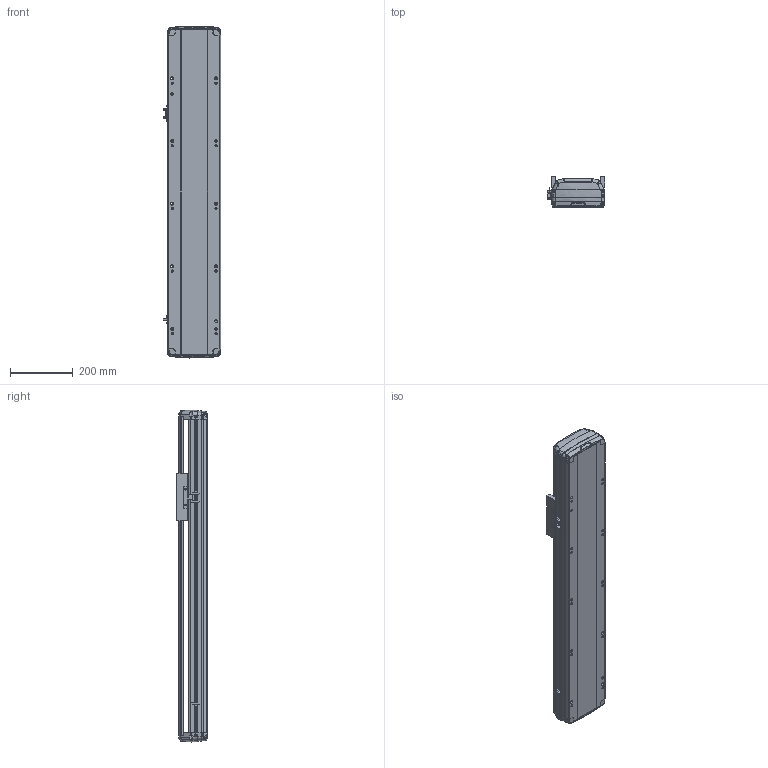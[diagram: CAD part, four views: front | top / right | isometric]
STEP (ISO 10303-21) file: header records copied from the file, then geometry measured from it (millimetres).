
FILE_DESCRIPTION (( 'STEP AP214' ), '1' );
FILE_NAME ('RTH17-XX-650-B-M40-C4.STEP', '2025-10-24T08:35:58', ( '' ), ( '' ), 'SwSTEP 2.0', 'SolidWorks 2018', '' );
FILE_SCHEMA (( 'AUTOMOTIVE_DESIGN' ));
Length unit declared in the file: millimetre
Products named in the file (7): N_RTH17-E-004丝杆螺母连接座^RTH17-XX-XX-B-M40-C4（方程式）; N_RTH17-GY-001P^RTH17-XX-XX-B-M40-C4（方程式）; N_RTH17-M-007上盖^RTH17-XX-XX-B-M40-C4（方程式）; N_RTH17-M-011底座^RTH17-XX-XX-B-M40-C4（方程式）; RTH17-XX-650-B-M40-C4; N_RTH-L-012 感应片(外置)^RTH17-XX-XX-B-M40-C4（方程式）; N_OMRON EE-SX672 換覜ん^RTH17-XX-XX-B-M40-C4ㄗ源最宒ㄘ
Assembly tree (9 placements, depth 2):
  RTH17-XX-650-B-M40-C4
    N_RTH17-M-011底座^RTH17-XX-XX-B-M40-C4（方程式）
    N_RTH17-M-007上盖^RTH17-XX-XX-B-M40-C4（方程式）
    N_OMRON EE-SX672 換覜ん^RTH17-XX-XX-B-M40-C4ㄗ源最宒ㄘ  x3
    N_RTH-L-012 感应片(外置)^RTH17-XX-XX-B-M40-C4（方程式）
    N_RTH17-E-004丝杆螺母连接座^RTH17-XX-XX-B-M40-C4（方程式）
    N_RTH17-GY-001P^RTH17-XX-XX-B-M40-C4（方程式）  x2
Bounding box: 183.5 x 97 x 1059.88 mm (x, y, z)
Volume: 7838765 mm3; surface area: 1100195.9 mm2
Topology: 7 solids, 11 shells, 1720 faces, 4826 edges, 3134 vertices
Faces by surface type: plane 809, cylinder 445, bspline 420, cone 28, torus 18
Entity records: 40278 total; most frequent: CARTESIAN_POINT 16789, ORIENTED_EDGE 5156, DIRECTION 4066, EDGE_CURVE 2582, VERTEX_POINT 1688, LINE 1418, VECTOR 1418, AXIS2_PLACEMENT_3D 1324
